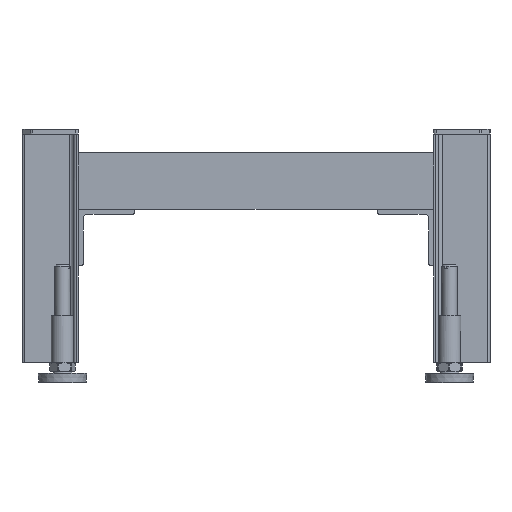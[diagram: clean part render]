
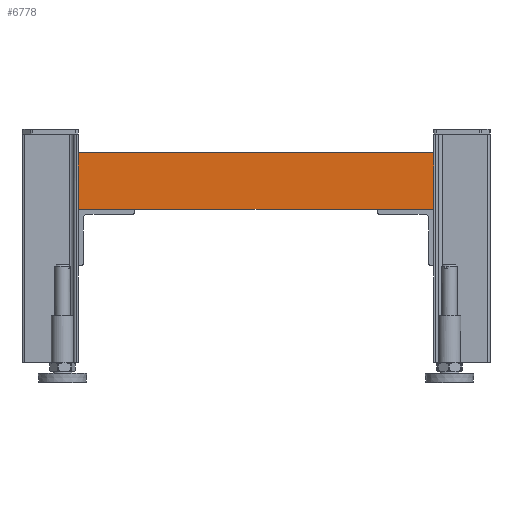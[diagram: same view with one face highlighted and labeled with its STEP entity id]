
A CAD part, front view. The second image highlights one B-rep face of the part: STEP entity #6778.
In plain terms, the highlighted planar face has unit normal (0, -1, 0).
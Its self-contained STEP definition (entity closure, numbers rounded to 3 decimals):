
#721=FACE_OUTER_BOUND('',#1120,.T.);
#1120=EDGE_LOOP('',(#5880,#5881,#5882,#5883,#5884,#5885));
#1809=LINE('',#11598,#2328);
#1844=LINE('',#11678,#2363);
#1915=LINE('',#11871,#2434);
#1930=LINE('',#11910,#2449);
#1931=LINE('',#11912,#2450);
#1932=LINE('',#11913,#2451);
#2328=VECTOR('',#8934,10.);
#2363=VECTOR('',#9009,10.);
#2434=VECTOR('',#9236,10.);
#2449=VECTOR('',#9277,10.);
#2450=VECTOR('',#9280,10.);
#2451=VECTOR('',#9281,10.);
#2996=VERTEX_POINT('',#11577);
#3002=VERTEX_POINT('',#11596);
#3021=VERTEX_POINT('',#11655);
#3027=VERTEX_POINT('',#11676);
#3069=VERTEX_POINT('',#11867);
#3071=VERTEX_POINT('',#11870);
#3875=EDGE_CURVE('',#3002,#2996,#1809,.T.);
#3916=EDGE_CURVE('',#3021,#3027,#1844,.T.);
#4013=EDGE_CURVE('',#3069,#3071,#1915,.T.);
#4034=EDGE_CURVE('',#2996,#3021,#1930,.T.);
#4035=EDGE_CURVE('',#3069,#3002,#1931,.T.);
#4036=EDGE_CURVE('',#3027,#3071,#1932,.T.);
#5880=ORIENTED_EDGE('',*,*,#4035,.T.);
#5881=ORIENTED_EDGE('',*,*,#3875,.T.);
#5882=ORIENTED_EDGE('',*,*,#4034,.T.);
#5883=ORIENTED_EDGE('',*,*,#3916,.T.);
#5884=ORIENTED_EDGE('',*,*,#4036,.T.);
#5885=ORIENTED_EDGE('',*,*,#4013,.F.);
#6205=PLANE('',#7466);
#6778=ADVANCED_FACE('',(#721),#6205,.T.);
#7466=AXIS2_PLACEMENT_3D('',#11911,#9278,#9279);
#8934=DIRECTION('',(1.,0.,0.));
#9009=DIRECTION('',(1.,0.,0.));
#9236=DIRECTION('',(1.,0.,0.));
#9277=DIRECTION('',(1.,0.,0.));
#9278=DIRECTION('center_axis',(0.,-1.,0.));
#9279=DIRECTION('ref_axis',(0.,0.,
-1.));
#9280=DIRECTION('',(0.,0.,-1.));
#9281=DIRECTION('',(0.,0.,1.));
#11577=CARTESIAN_POINT('',(167.,0.,-80.));
#11596=CARTESIAN_POINT('',(107.,0.,-80.));
#11598=CARTESIAN_POINT('',(107.,0.,-80.));
#11655=CARTESIAN_POINT('',(424.,0.,-80.));
#11676=CARTESIAN_POINT('',(484.,0.,-80.));
#11678=CARTESIAN_POINT('',(107.,0.,-80.));
#11867=CARTESIAN_POINT('',(107.,0.,-20.));
#11870=CARTESIAN_POINT('',(484.,0.,-20.));
#11871=CARTESIAN_POINT('',(107.,0.,-20.));
#11910=CARTESIAN_POINT('',(107.,0.,-80.));
#11911=CARTESIAN_POINT('Origin',(107.,0.,-20.));
#11912=CARTESIAN_POINT('',(107.,0.,0.));
#11913=CARTESIAN_POINT('',(484.,0.,-243.));
